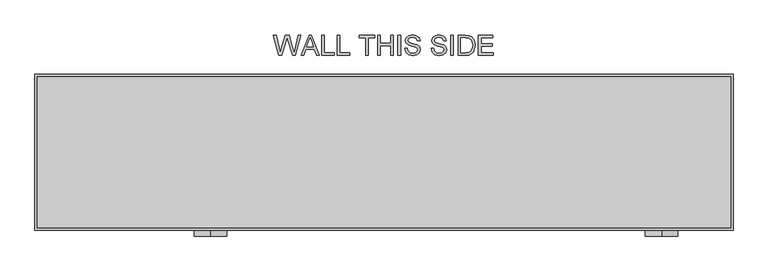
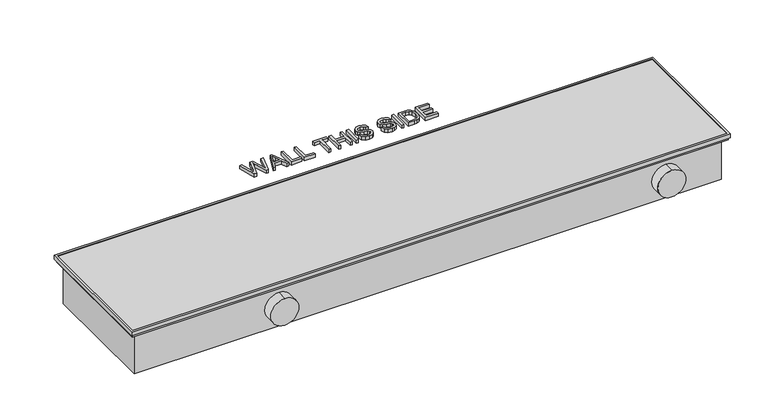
"""IFC4 building model written with IfcOpenShell, lengths in millimetres: unitary equipment geometry, VERANO CVK4P-II : CVK4P-14/35-II."""

from ifc_helpers import new_model, si_unit, point, frame, frame_2d, origin, origin_with_axes, place, context, project, spatial, polyline, circle_curve, trimmed, segment, composite_curve, outline, extrude, faceted_brep, source, transform, mapped, element, save


def unitary_equipment_0b13c60d(model_context):
    return source(origin(), model_context, "Body", "SolidModel", [
        extrude(outline(composite_curve([segment(trimmed(circle_curve(frame_2d((-79.0, 679.0)), 40.0), [point((-39.0, 679.0))], [point((-119.0, 679.0))], False, "CARTESIAN"), True, "CONTINUOUS"), segment(trimmed(circle_curve(frame_2d((-79.0, 679.0)), 40.0), [point((-119.0, 679.0))], [point((-39.0, 679.0))], False, "CARTESIAN"), True, "CONTINUOUS")], self_intersect=False)), frame((0.0, -205.0, 0.0), z_axis=(0.0, 1.0, 0.0), x_axis=(0.0, 0.0, 1.0)), (0.0, 0.0, 1.0), 30.0),
        extrude(outline(composite_curve([segment(trimmed(circle_curve(frame_2d((-79.0, -425.0)), 40.0), [point((-39.0, -425.0))], [point((-119.0, -425.0))], False, "CARTESIAN"), True, "CONTINUOUS"), segment(trimmed(circle_curve(frame_2d((-79.0, -425.0)), 40.0), [point((-119.0, -425.0))], [point((-39.0, -425.0))], False, "CARTESIAN"), True, "CONTINUOUS")], self_intersect=False)), frame((0.0, -205.0, 0.0), z_axis=(0.0, 1.0, 0.0), x_axis=(0.0, 0.0, 1.0)), (0.0, 0.0, 1.0), 30.0),
        extrude(outline(composite_curve([segment(trimmed(circle_curve(frame_2d((35.0, -71.0)), 10.0), [point((35.0, -61.0))], [point((35.0, -81.0))], False, "CARTESIAN"), True, "CONTINUOUS"), segment(trimmed(circle_curve(frame_2d((35.0, -71.0)), 10.0), [point((35.0, -81.0))], [point((35.0, -61.0))], False, "CARTESIAN"), True, "CONTINUOUS")], self_intersect=False)), frame((-702.0, 0.0, 0.0), z_axis=(1.0, 0.0, 0.0), x_axis=(0.0, 1.0, 0.0)), (0.0, 0.0, 1.0), 70.0),
        extrude(outline(composite_curve([segment(trimmed(circle_curve(frame_2d((143.0, -79.0)), 10.0), [point((143.0, -69.0))], [point((143.0, -89.0))], False, "CARTESIAN"), True, "CONTINUOUS"), segment(trimmed(circle_curve(frame_2d((143.0, -79.0)), 10.0), [point((143.0, -89.0))], [point((143.0, -69.0))], False, "CARTESIAN"), True, "CONTINUOUS")], self_intersect=False)), frame((-702.0, 0.0, 0.0), z_axis=(1.0, 0.0, 0.0), x_axis=(0.0, 1.0, 0.0)), (0.0, 0.0, 1.0), 70.0),
        extrude(outline(polyline([(-642.0, -25.0), (-642.0, -5.0), (-632.0, -5.0), (-632.0, -25.0), (-642.0, -25.0)])), frame((0.0, 0.0, -130.0), z_axis=(0.0, 0.0, 1.0), x_axis=(1.0, 0.0, 0.0)), (0.0, 0.0, 1.0), 10.0),
        faceted_brep([(848.0, -185.0, -16.5), (848.0, -185.0, 1.5), (848.0, 185.0, 1.5), (848.0, 185.0, -16.5), (849.0, -186.0, 0.0), (849.0, -186.0, -16.5), (849.0, 186.0, -16.5), (849.0, 186.0, 0.0), (853.0, -190.0, -10.0), (853.0, -190.0, 0.0), (853.0, 190.0, 0.0), (853.0, 190.0, -10.0), (854.0, -191.0, 1.5), (854.0, -191.0, -10.0), (854.0, 191.0, -10.0), (854.0, 191.0, 1.5), (-848.0, 185.0, 1.5), (-848.0, 185.0, -16.5), (-849.0, 186.0, -16.5), (-849.0, 186.0, 0.0), (-853.0, 190.0, 0.0), (-853.0, 190.0, -10.0), (-854.0, 191.0, -10.0), (-854.0, 191.0, 1.5), (-848.0, -185.0, 1.5), (-848.0, -185.0, -16.5), (-849.0, -186.0, -16.5), (-849.0, -186.0, 0.0), (-853.0, -190.0, 0.0), (-853.0, -190.0, -10.0), (-854.0, -191.0, -10.0), (-854.0, -191.0, 1.5)], [[[0, 1, 2, 3]], [[4, 5, 6, 7]], [[8, 9, 10, 11]], [[12, 13, 14, 15]], [[3, 2, 16, 17]], [[7, 6, 18, 19]], [[11, 10, 20, 21]], [[15, 14, 22, 23]], [[17, 16, 24, 25]], [[19, 18, 26, 27]], [[21, 20, 28, 29]], [[23, 22, 30, 31]], [[15, 23, 31, 12], [1, 24, 16, 2]], [[25, 24, 1, 0]], [[5, 26, 18, 6], [3, 17, 25, 0]], [[27, 26, 5, 4]], [[9, 28, 20, 10], [7, 19, 27, 4]], [[29, 28, 9, 8]], [[13, 30, 22, 14], [11, 21, 29, 8]], [[31, 30, 13, 12]]]),
        extrude(outline(composite_curve([segment(trimmed(circle_curve(frame_2d((23.0, -36.0)), 10.0), [point((23.0, -26.0))], [point((23.0, -46.0))], False, "CARTESIAN"), True, "CONTINUOUS"), segment(trimmed(circle_curve(frame_2d((23.0, -36.0)), 10.0), [point((23.0, -46.0))], [point((23.0, -26.0))], False, "CARTESIAN"), True, "CONTINUOUS")], self_intersect=False)), frame((-702.0, 0.0, 0.0), z_axis=(1.0, 0.0, 0.0), x_axis=(0.0, 1.0, 0.0)), (0.0, 0.0, 1.0), 70.0),
        extrude(outline(composite_curve([segment(trimmed(circle_curve(frame_2d((115.0, -97.0)), 10.0), [point((115.0, -87.0))], [point((115.0, -107.0))], False, "CARTESIAN"), True, "CONTINUOUS"), segment(trimmed(circle_curve(frame_2d((115.0, -97.0)), 10.0), [point((115.0, -107.0))], [point((115.0, -87.0))], False, "CARTESIAN"), True, "CONTINUOUS")], self_intersect=False)), frame((-702.0, 0.0, 0.0), z_axis=(1.0, 0.0, 0.0), x_axis=(0.0, 1.0, 0.0)), (0.0, 0.0, 1.0), 70.0),
        extrude(outline(polyline([(-256.9591346, 237.0), (-270.3846154, 286.2307692), (-264.0384615, 286.2307692), (-256.25, 253.875), (-253.8461538, 243.8870192), (-251.2740385, 252.7211538), (-241.5144231, 286.2307692), (-232.3677885, 286.2307692), (-225.2764423, 261.9399038), (-220.0, 243.8870192), (-217.6682692, 253.5865385), (-209.8076923, 286.2307692), (-203.4615385, 286.2307692), (-216.8990385, 237.0), (-223.4735577, 237.0), (-235.2764423, 274.9807692), (-236.9230769, 280.28125), (-238.7740385, 273.8990385), (-249.53125, 237.0), (-256.9591346, 237.0)])), origin_with_axes(), (0.0, 0.0, 1.0), 10.0),
        extrude(outline(polyline([(-203.0408654, 237.0), (-183.3894231, 286.2307692), (-178.1490385, 286.2307692), (-158.4975962, 237.0), (-165.0, 237.0), (-170.6370192, 252.3846154), (-190.9134615, 252.3846154), (-196.5384615, 237.0), (-203.0408654, 237.0)]), holes=[polyline([(-188.6538462, 258.5384615), (-172.8846154, 258.5384615), (-177.3197115, 270.6418269), (-180.7692308, 280.0769231), (-183.8341346, 271.6995192), (-188.6538462, 258.5384615)])]), origin_with_axes(), (0.0, 0.0, 1.0), 10.0),
        extrude(outline(polyline([(-151.9230769, 237.0), (-151.9230769, 286.2307692), (-145.7692308, 286.2307692), (-145.7692308, 243.1538462), (-121.1538462, 243.1538462), (-121.1538462, 237.0), (-151.9230769, 237.0)])), origin_with_axes(), (0.0, 0.0, 1.0), 10.0),
        extrude(outline(polyline([(-114.2307692, 237.0), (-114.2307692, 286.2307692), (-108.0769231, 286.2307692), (-108.0769231, 243.1538462), (-83.4615385, 243.1538462), (-83.4615385, 237.0), (-114.2307692, 237.0)])), origin_with_axes(), (0.0, 0.0, 1.0), 10.0),
        extrude(outline(polyline([(-45.0, 237.0), (-45.0, 280.0769231), (-61.1538462, 280.0769231), (-61.1538462, 286.2307692), (-22.6923077, 286.2307692), (-22.6923077, 280.0769231), (-38.8461538, 280.0769231), (-38.8461538, 237.0), (-45.0, 237.0)])), origin_with_axes(), (0.0, 0.0, 1.0), 10.0),
        extrude(outline(polyline([(-15.7692308, 237.0), (-15.7692308, 286.2307692), (-9.6153846, 286.2307692), (-9.6153846, 266.2307692), (16.5384615, 266.2307692), (16.5384615, 286.2307692), (22.6923077, 286.2307692), (22.6923077, 237.0), (16.5384615, 237.0), (16.5384615, 260.0769231), (-9.6153846, 260.0769231), (-9.6153846, 237.0), (-15.7692308, 237.0)])), origin_with_axes(), (0.0, 0.0, 1.0), 10.0),
        extrude(outline(polyline([(34.2307692, 237.0), (34.2307692, 286.2307692), (40.3846154, 286.2307692), (40.3846154, 237.0), (34.2307692, 237.0)])), origin_with_axes(), (0.0, 0.0, 1.0), 10.0),
        extrude(outline(polyline([(50.3846154, 253.9230769), (56.5384615, 253.9230769), (58.5216346, 247.7632212), (63.3653846, 243.8689904), (70.7451923, 242.3846154), (77.1754808, 243.5084135), (81.328125, 246.5973558), (82.6923077, 250.7259615), (81.6706731, 254.5661058), (77.4879808, 257.3605769), (68.5276442, 259.7103365), (58.8822115, 262.7451923), (53.6478365, 267.3245192), (51.9230769, 273.4423077), (54.0564904, 280.4074519), (60.2884615, 285.3233173), (69.4110577, 287.0), (79.1466346, 285.2451923), (85.6370192, 280.0889423), (88.0769231, 272.3846154), (81.9230769, 272.3846154), (78.4375, 278.7067308), (69.6514423, 280.8461538), (60.8413462, 278.7307692), (58.0769231, 273.6225962), (60.0360577, 269.3557692), (70.0841346, 265.9182692), (80.9735577, 262.8293269), (86.9290865, 257.8413462), (88.8461538, 250.8822115), (86.640625, 243.5204327), (80.2944712, 238.1478365), (70.9855769, 236.2307692), (59.9939904, 238.2980769), (53.0408654, 244.5240385), (50.3846154, 253.9230769)])), origin_with_axes(), (0.0, 0.0, 1.0), 10.0),
        extrude(outline(polyline([(115.0, 253.9230769), (121.1538462, 253.9230769), (123.1370192, 247.7632212), (127.9807692, 243.8689904), (135.3605769, 242.3846154), (141.7908654, 243.5084135), (145.9435096, 246.5973558), (147.3076923, 250.7259615), (146.2860577, 254.5661058), (142.1033654, 257.3605769), (133.1430288, 259.7103365), (123.4975962, 262.7451923), (118.2632212, 267.3245192), (116.5384615, 273.4423077), (118.671875, 280.4074519), (124.9038462, 285.3233173), (134.0264423, 287.0), (143.7620192, 285.2451923), (150.2524038, 280.0889423), (152.6923077, 272.3846154), (146.5384615, 272.3846154), (143.0528846, 278.7067308), (134.2668269, 280.8461538), (125.4567308, 278.7307692), (122.6923077, 273.6225962), (124.6514423, 269.3557692), (134.6995192, 265.9182692), (145.5889423, 262.8293269), (151.5444712, 257.8413462), (153.4615385, 250.8822115), (151.2560096, 243.5204327), (144.9098558, 238.1478365), (135.6009615, 236.2307692), (124.609375, 238.2980769), (117.65625, 244.5240385), (115.0, 253.9230769)])), origin_with_axes(), (0.0, 0.0, 1.0), 10.0),
        extrude(outline(polyline([(163.4615385, 237.0), (163.4615385, 286.2307692), (169.6153846, 286.2307692), (169.6153846, 237.0), (163.4615385, 237.0)])), origin_with_axes(), (0.0, 0.0, 1.0), 10.0),
        extrude(outline(polyline([(181.9230769, 237.0), (181.9230769, 286.2307692), (198.90625, 286.2307692), (207.6923077, 285.5216346), (214.9278846, 282.0), (220.7572115, 273.5865385), (222.6923077, 261.8798077), (221.3822115, 251.9459135), (218.0168269, 244.7764423), (213.5216346, 240.3112981), (207.6382212, 237.8413462), (199.7235577, 237.0), (181.9230769, 237.0)]), holes=[polyline([(188.0769231, 243.1538462), (198.9663462, 243.1538462), (206.8870192, 244.0432692), (211.4543269, 246.5552885), (215.1983173, 252.6670673), (216.5384615, 261.9759615), (213.9122596, 273.6346154), (207.5240385, 279.0913462), (198.7980769, 280.0769231), (188.0769231, 280.0769231), (188.0769231, 243.1538462)])]), origin_with_axes(), (0.0, 0.0, 1.0), 10.0),
        extrude(outline(polyline([(231.1538462, 237.0), (231.1538462, 286.2307692), (266.5384615, 286.2307692), (266.5384615, 280.0769231), (237.3076923, 280.0769231), (237.3076923, 265.4615385), (265.0, 265.4615385), (265.0, 259.3076923), (237.3076923, 259.3076923), (237.3076923, 243.1538462), (267.3076923, 243.1538462), (267.3076923, 237.0), (231.1538462, 237.0)])), origin_with_axes(), (0.0, 0.0, 1.0), 10.0),
        extrude(outline(polyline([(788.0, 175.0), (788.0, -162.0), (-632.0, -162.0), (-632.0, 175.0), (788.0, 175.0)])), frame((0.0, 0.0, -139.0), z_axis=(0.0, 0.0, 1.0), x_axis=(1.0, 0.0, 0.0)), (0.0, 0.0, 1.0), 121.0),
        extrude(outline(polyline([(850.0, 187.0), (850.0, -187.0), (-850.0, -187.0), (-850.0, 187.0), (850.0, 187.0)])), frame((0.0, 0.0, -18.0), z_axis=(0.0, 0.0, 1.0), x_axis=(1.0, 0.0, 0.0)), (0.0, 0.0, 1.0), 18.0),
        faceted_brep([(837.0, -174.0, -17.0), (837.0, 174.0, -17.0), (837.0, 174.0, -139.0), (837.0, -174.0, -139.0), (850.0, -187.0, 0.0), (850.0, -187.0, -18.0), (850.0, 187.0, -18.0), (850.0, 187.0, 0.0), (849.0, -186.0, -17.0), (849.0, -186.0, 0.0), (849.0, 186.0, 0.0), (849.0, 186.0, -17.0), (838.0, -175.0, -18.0), (838.0, -175.0, -140.0), (838.0, 175.0, -140.0), (838.0, 175.0, -18.0), (-850.0, 187.0, -18.0), (-850.0, 187.0, 0.0), (-849.0, 186.0, 0.0), (-849.0, 186.0, -17.0), (-838.0, 175.0, -140.0), (-838.0, 175.0, -18.0), (-837.0, 174.0, -17.0), (-837.0, 174.0, -139.0), (-850.0, -187.0, -18.0), (-850.0, -187.0, 0.0), (-849.0, -186.0, 0.0), (-849.0, -186.0, -17.0), (-838.0, -175.0, -140.0), (-838.0, -175.0, -18.0), (-837.0, -174.0, -17.0), (-837.0, -174.0, -139.0)], [[[0, 1, 2, 3]], [[4, 5, 6, 7]], [[8, 9, 10, 11]], [[12, 13, 14, 15]], [[7, 6, 16, 17]], [[11, 10, 18, 19]], [[15, 14, 20, 21]], [[1, 22, 23, 2]], [[17, 16, 24, 25]], [[19, 18, 26, 27]], [[21, 20, 28, 29]], [[22, 30, 31, 23]], [[8, 11, 19, 27], [1, 0, 30, 22]], [[5, 4, 25, 24]], [[4, 7, 17, 25], [10, 9, 26, 18]], [[9, 8, 27, 26]], [[6, 5, 24, 16], [12, 15, 21, 29]], [[13, 12, 29, 28]], [[14, 13, 28, 20]], [[30, 0, 3, 31]], [[3, 2, 23, 31]]]),
    ])


if __name__ == "__main__":
    model = new_model("IFC4")
    model_context = context("Model", 3, world=origin())
    ifc_project = project(units=[si_unit("LENGTHUNIT", "METRE", prefix="MILLI")], contexts=[model_context])
    site = spatial("IfcSite", under=ifc_project)
    building = spatial("IfcBuilding", under=site)
    placement = place(None, origin())
    unitary_equipment_shape = unitary_equipment_0b13c60d(model_context)
    element("IfcUnitaryEquipment", 1, ObjectType="VERANO CVK4P-II : CVK4P-14/35-II", at=placement, inside=building, context=model_context, shape_type="MappedRepresentation", body=[
        mapped(unitary_equipment_shape, transform((0.0, 0.0, 0.0), x_axis=(1.0, 0.0, 0.0), y_axis=(0.0, 1.0, 0.0), z_axis=(0.0, 0.0, 1.0))),
    ])
    save(model, "model.ifc")
